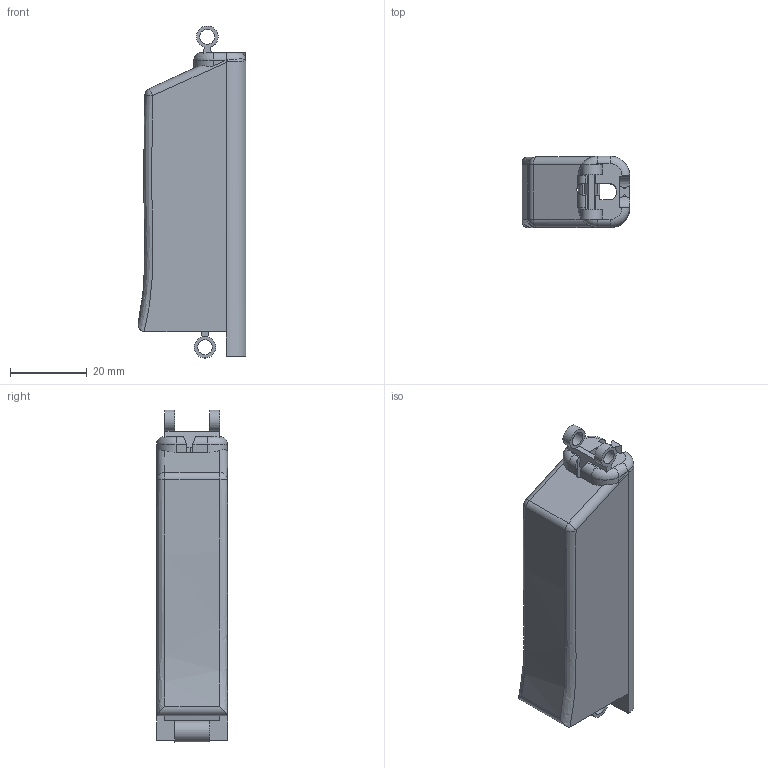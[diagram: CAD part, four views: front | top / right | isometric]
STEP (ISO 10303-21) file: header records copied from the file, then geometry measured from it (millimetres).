
FILE_DESCRIPTION(/* description */ ('STEP AP242 Edition 2','CAx-IF Rec.Pracs.---Representation and Presentation of Product Manufacturing Information (PMI)---4.0---2014-10-13','CAx-IF Rec.Pracs.---3D Tessellated Geometry---0.4---2014-09-14','2;1','CAx-IF Rec.Pracs.---User Defined Attributes---1.5---2016-08-15'),/* implementation_level */ '2;1');
FILE_NAME(/* name */ 'Assembly 1 - Mid Bih',/* time_stamp */ '2026-06-19T18:21:05Z',/* author */ (''),/* organization */ (''),/* preprocessor_version */ 'ST-DEVELOPER v20',/* originating_system */ 'ONSHAPE BY PTC INC, 1.216',/* authorisation */ ' ');
FILE_SCHEMA (('AP242_MANAGED_MODEL_BASED_3D_ENGINEERING_MIM_LF { 1 0 10303 442 3 1 4 }'));
Length unit declared in the file: metre
Products named in the file (1): Mid Bih
Bounding box: 28.07 x 18.48 x 86.38 mm (x, y, z)
Volume: 30944.3 mm3; surface area: 9498.6 mm2
Topology: 1 solids, 1 shells, 95 faces, 275 edges, 175 vertices
Faces by surface type: plane 53, cylinder 29, torus 6, bspline 3, sphere 2, cone 2
Full cylindrical faces by diameter (mm): 3.865 x3
Entity records: 3257 total; most frequent: CARTESIAN_POINT 735, ORIENTED_EDGE 540, DIRECTION 506, EDGE_CURVE 270, VERTEX_POINT 175, AXIS2_PLACEMENT_3D 169, LINE 168, VECTOR 168
